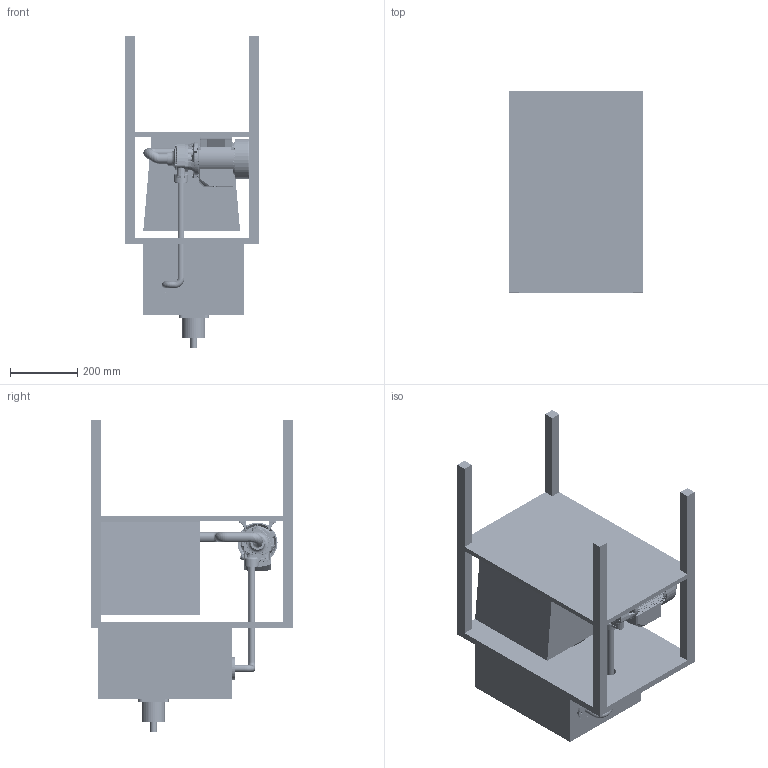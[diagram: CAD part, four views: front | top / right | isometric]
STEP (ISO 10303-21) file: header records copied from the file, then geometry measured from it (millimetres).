
FILE_DESCRIPTION(/* description */ (''),/* implementation_level */ '2;1');
FILE_NAME(/* name */ 'Assieme_banco_pelton.stp',/* time_stamp */ '2025-03-22T14:50:55+01:00',/* author */ ('R5800u'),/* organization */ (''),/* preprocessor_version */ 'ST-DEVELOPER v20',/* originating_system */ 'Autodesk Inventor 2025',/* authorisation */ '');
FILE_SCHEMA (('AUTOMOTIVE_DESIGN { 1 0 10303 214 3 1 1 }'));
Products named in the file (73): Assieme_banco_turgo; Assieme_turgo_frame; Assieme2; SOLID; tslot-20x20-3; tslot-20x20-2; tslot-20x20-3_MIR1; SNSD20x20; SNSD20x20_MIR; tslot-20x20-2_MIR1; lastra_top; lastra_laterale1; lastra_laterale3; lastra_laterale2; tslot 2040; SKF51104; albero_2; %3% BS 290 - SKF 61804; blocco_albero; BS EN ISO 4762 - M4 x 35; tavolo; PERIPHERAL WATER PUMP; CASING WITH WOUND STATOR; TERMINAL COVER; BOLT(4); FAN COVER; FAIRLEAD; PUMP CASING; CHARGE PLUG; CAPACITOR; SHAFT; FAN; TAPON TRANSPARENTE; ROTOR; PUMP SUPPORT; IMPELLER; DRIVING CAP; O RING (2); BOLT(3); EMPAQUE UNION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
Assembly tree (184 placements, depth 4):
  Assieme_banco_turgo
    Assieme_turgo_frame
      Assieme2
        SOLID  x4
        tslot-20x20-3  x2
        tslot-20x20-2  x2
        tslot-20x20-3_MIR1  x2
        SNSD20x20  x8
        SNSD20x20_MIR  x8
        tslot-20x20-2_MIR1  x2
      lastra_top
      lastra_laterale1  x2
      lastra_laterale3
      lastra_laterale2
      tslot 2040
    SKF51104
    albero_2
    %3% BS 290 - SKF 61804
    blocco_albero
    BS EN ISO 4762 - M4 x 35  x2
    tavolo
    PERIPHERAL WATER PUMP
      CASING WITH WOUND STATOR
      TERMINAL COVER
      BOLT(4)  x2
      FAN COVER
      FAIRLEAD
      PUMP CASING
      CHARGE PLUG
      CAPACITOR
      SHAFT
      FAN
      TAPON TRANSPARENTE  x2
      ROTOR
      PUMP SUPPORT
      IMPELLER
      DRIVING CAP
      O RING (2)
      BOLT(3)  x3
      BOLT(2)  x6
      EMPAQUE UNION
      DROPS GUARD
        EMPAQUE2-3
        EMPAQUE2-2
      MECHANICAL SEAL
        PARTE 2 EMPAQUE
        PARTE 1 EMPAQUE
        PARTE 3 EMPAQUE
        PARTE 4 EMPAQUE
        WASHER
      SNAP RING
      BEARING  x2
      COIL
        PLACA ENBOBINADO  x56
        Pieza3^COIL
        Pieza1^COIL
      CABLE PRESSER
      SCREW  x3
      O RING
      KEY
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Bounding box: 400 x 600 x 927.6 mm (x, y, z)
Volume: 15686407.6 mm3; surface area: 5013894.2 mm2
Topology: 1676 solids, 1676 shells, 20546 faces, 50219 edges, 32903 vertices
Faces by surface type: cylinder 9851, plane 8819, bspline 1255, torus 314, cone 209, sphere 98
Full cylindrical faces by diameter (mm): 0.08 x19, 0.596 x1440, 1.3 x75, 1.8 x1, 2 x2, 2.65 x2, 2.7 x1, 2.8 x11, 3.242 x2, 3.4 x76, 3.9 x3, 4 x4, 4.2 x12, 4.3 x12, 4.35 x2, 4.5 x8, 4.6 x2, 5 x29, 5.2 x2, 5.3 x4, 5.7 x2, 6.3 x1, 6.5 x3, 6.57 x5, 7 x5, 7.6 x1, 7.8 x1, 8.376 x5, 8.4 x4, 8.5 x4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
Entity records: 289120 total; most frequent: CARTESIAN_POINT 113530, DIRECTION 37747, ORIENTED_EDGE 31010, EDGE_CURVE 15505, AXIS2_PLACEMENT_3D 15240, VERTEX_POINT 10173, EDGE_LOOP 9304, ADVANCED_FACE 8558
